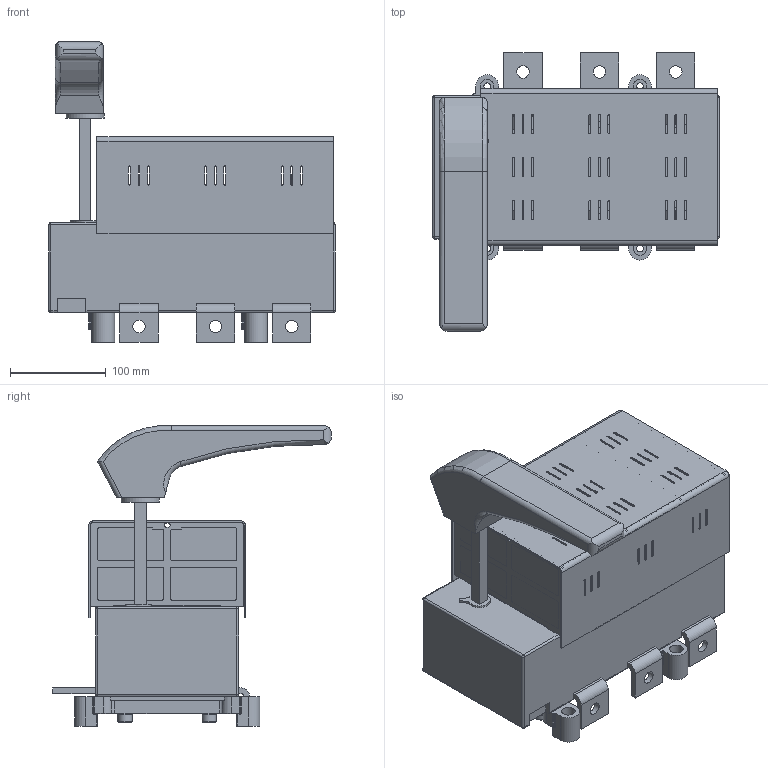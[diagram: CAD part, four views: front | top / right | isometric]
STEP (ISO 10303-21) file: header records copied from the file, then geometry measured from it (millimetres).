
FILE_DESCRIPTION(/* description */ (''),/* implementation_level */ '2;1');
FILE_NAME(/* name */ 'RAB 3 P3 A-R.stp',/* time_stamp */ '2021-08-19T14:49:31+02:00',/* author */ (''),/* organization */ (''),/* preprocessor_version */ 'ST-DEVELOPER v18.1',/* originating_system */ 'SIEMENS PLM Software NX 1965',/* authorisation */ '');
FILE_SCHEMA (('AUTOMOTIVE_DESIGN { 1 0 10303 214 3 1 1 1 }'));
Length unit declared in the file: millimetre
Products named in the file (1): RAB 3 P3 A-R_stp
Bounding box: 300 x 292 x 314.5 mm (x, y, z)
Volume: 4920227.7 mm3; surface area: 678426.6 mm2
Topology: 1 solids, 13 shells, 1584 faces, 4296 edges, 2751 vertices
Faces by surface type: plane 912, cylinder 556, torus 50, bspline 50, cone 8, sphere 8
Full cylindrical faces by diameter (mm): 3 x4, 4.8 x4, 5.6 x4, 6.5 x26, 7 x4, 10.5 x26, 13 x6, 13.5 x4, 14 x4, 15 x4, 40 x1
Entity records: 51797 total; most frequent: CARTESIAN_POINT 11697, DIRECTION 8296, ORIENTED_EDGE 8290, EDGE_CURVE 4145, LINE 2796, VECTOR 2796, AXIS2_PLACEMENT_3D 2750, VERTEX_POINT 2723
